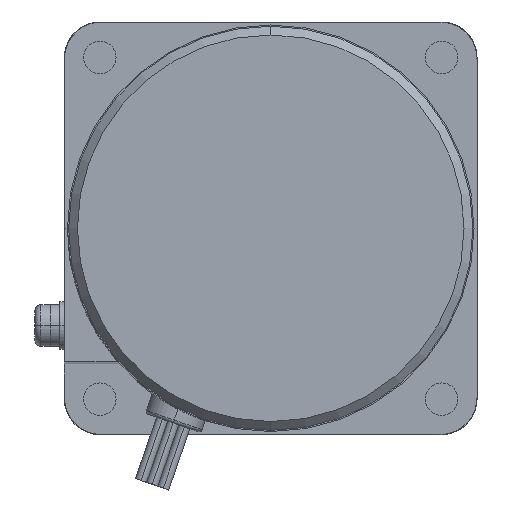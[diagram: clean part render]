
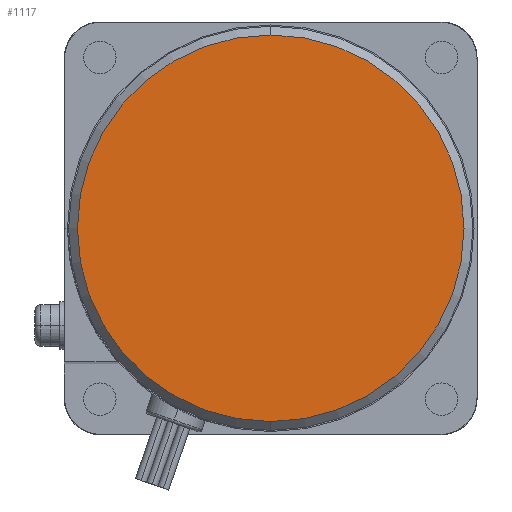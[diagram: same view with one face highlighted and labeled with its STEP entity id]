
A CAD part, left-side view. The second image highlights one B-rep face of the part: STEP entity #1117.
In plain terms, the highlighted planar face has unit normal (-1, 0, 0).
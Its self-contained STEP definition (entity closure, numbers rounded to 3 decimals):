
#1097=CARTESIAN_POINT('POINT63312',(-112.,0.,
   17.8));
#1098=VERTEX_POINT('VERTEX63312',#1097);
#1099=CARTESIAN_POINT('POINT63313',(-112.,0.,
   -47.8));
#1100=VERTEX_POINT('VERTEX63313',#1099);
#1101=CARTESIAN_POINT('POS108413',(-112.,0.,-15.));
#1102=DIRECTION('DIR167333',(1.,0.,0.));
#1103=DIRECTION('DIR167334',(0.,0.,1.));
#1104=AXIS2_PLACEMENT_3D('AXIS58921',#1101,#1102,#1103);
#1105=CIRCLE('ELLIPSE28730',#1104,32.8);
#1106=EDGE_CURVE('EDGE97082',#1098,#1100,#1105,.T.);
#1107=ORIENTED_EDGE('COEDGE194159',*,*,#1106,.F.);
#1108=EDGE_CURVE('EDGE97083',#1100,#1098,#1105,.T.);
#1109=ORIENTED_EDGE('COEDGE194160',*,*,#1108,.F.);
#1110=EDGE_LOOP('NONE',(#1107,#1109));
#1111=FACE_BOUND('LOOP1',#1110,.T.);
#1112=CARTESIAN_POINT('POS108414',(-112.,0.,
   1.4));
#1113=DIRECTION('DIR167335',(-1.,0.,0.));
#1114=DIRECTION('DIR167336',(0.,1.,0.));
#1115=AXIS2_PLACEMENT_3D('AXIS58922',#1112,#1113,#1114);
#1116=PLANE('PLANE16769',#1115);
#1117=ADVANCED_FACE('FACE41300',(#1111),#1116,.T.);
